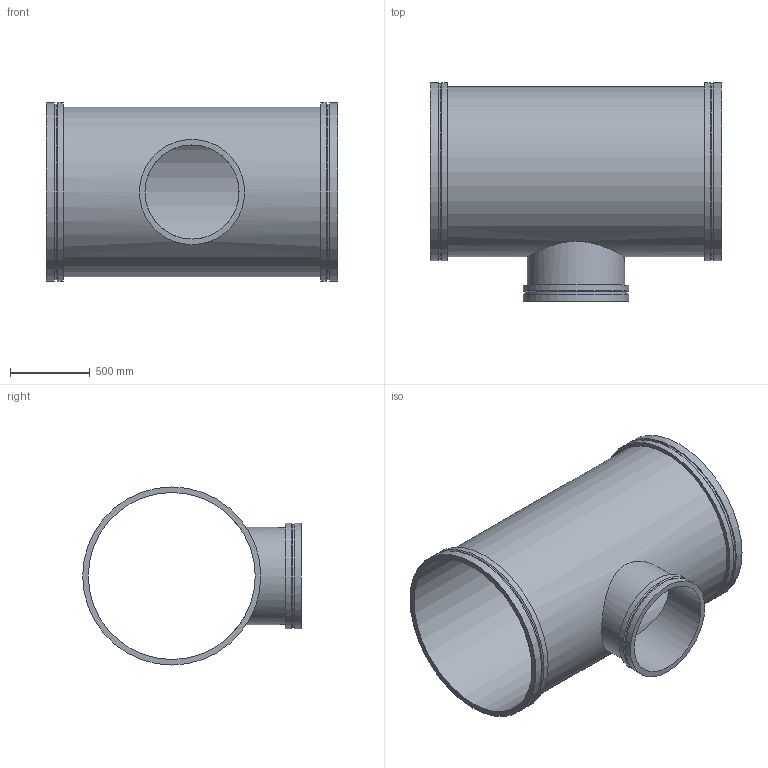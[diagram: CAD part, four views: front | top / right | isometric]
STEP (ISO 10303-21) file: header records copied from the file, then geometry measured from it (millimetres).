
FILE_DESCRIPTION(/* description */ ('VIC REDUCING TEE No W025 VR','CAx-IF Rec.Pracs.---Representation and Presentation of Product Manufacturing Information (PMI)---4.0---2014-10-13'),/* implementation_level */ '2;1');
FILE_NAME(/* name */ 'C:\Users\kkamble\AppData\Roaming\Autodesk\ApplicationPlugins\Back Up\Victaulic_Vic-Ring_Tee Reducing_No W25 VR (AGR)\Victaulic_Vic-Ring_Tee Reducing_No W25 VR (AGR)_42.0x24.0 (1050x600).stp',/* time_stamp */ '2020-09-10T11:55:59+05:00',/* author */ ('mchristi'),/* organization */ ('Victaulic'),/* preprocessor_version */ 'ST-DEVELOPER v17.2',/* originating_system */ 'Autodesk Inventor 2019',/* authorisation */ '');
FILE_SCHEMA (('AP242_MANAGED_MODEL_BASED_3D_ENGINEERING_MIM_LF { 1 0 10303 442 1 1 4 }'));
Length unit declared in the file: inch
Products named in the file (1): W25 VR-42.0x24.0
Bounding box: 1828.8 x 1371.6 x 1117.6 mm (x, y, z)
Volume: 83738548.7 mm3; surface area: 13482240.2 mm2
Topology: 1 solids, 1 shells, 25 faces, 68 edges, 52 vertices
Faces by surface type: cylinder 13, plane 9, cone 3
Full cylindrical faces by diameter (mm): 590.55 x1, 609.6 x1, 645.922 x1, 660.4 x2, 1047.75 x1, 1066.8 x1, 1101.725 x2, 1117.6 x4
Entity records: 1267 total; most frequent: CARTESIAN_POINT 423, DIRECTION 190, ORIENTED_EDGE 136, AXIS2_PLACEMENT_3D 87, EDGE_CURVE 68, VERTEX_POINT 52, CIRCLE 48, EDGE_LOOP 36
